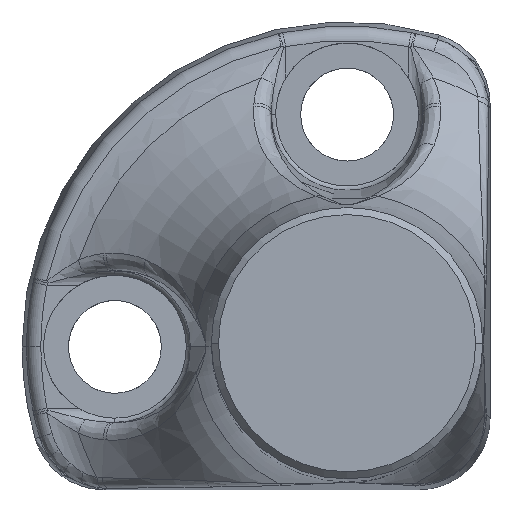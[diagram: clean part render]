
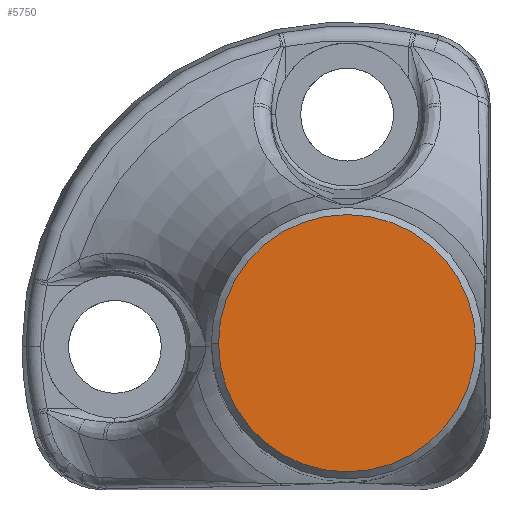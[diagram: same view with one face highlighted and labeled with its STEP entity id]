
A CAD part, top view. The second image highlights one B-rep face of the part: STEP entity #5750.
In plain terms, the highlighted planar face has unit normal (0, 0, 1).
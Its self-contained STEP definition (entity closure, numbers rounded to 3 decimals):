
#5702=CARTESIAN_POINT('Vertex',(18.,0.,300.)) ;
#5705=CARTESIAN_POINT('Axis2P3D Location',(0.,0.,300.)) ;
#5709=CARTESIAN_POINT('Vertex',(-18.,0.,300.)) ;
#5729=CARTESIAN_POINT('Axis2P3D Location',(0.,0.,300.)) ;
#5741=CARTESIAN_POINT('Axis2P3D Location',(75.,-24.173,300.)) ;
#5706=DIRECTION('Axis2P3D Direction',(-0.,0.,-1.)) ;
#5730=DIRECTION('Axis2P3D Direction',(-0.,0.,-1.)) ;
#5742=DIRECTION('Axis2P3D Direction',(0.,0.,-1.)) ;
#5743=DIRECTION('Axis2P3D XDirection',(-1.,0.,0.)) ;
#5707=AXIS2_PLACEMENT_3D('Circle Axis2P3D',#5705,#5706,$) ;
#5731=AXIS2_PLACEMENT_3D('Circle Axis2P3D',#5729,#5730,$) ;
#5744=AXIS2_PLACEMENT_3D('Plane Axis2P3D',#5741,#5742,#5743) ;
#5747=ORIENTED_EDGE('',*,*,#5711,.T.) ;
#5748=ORIENTED_EDGE('',*,*,#5733,.T.) ;
#5750=ADVANCED_FACE('Smusso4',(#5749),#5745,.F.) ;
#5708=CIRCLE('generated circle',#5707,18.) ;
#5732=CIRCLE('generated circle',#5731,18.) ;
#5711=EDGE_CURVE('',#5710,#5703,#5708,.F.) ;
#5733=EDGE_CURVE('',#5703,#5710,#5732,.F.) ;
#5746=EDGE_LOOP('',(#5747,#5748)) ;
#5749=FACE_OUTER_BOUND('',#5746,.T.) ;
#5745=PLANE('Plane',#5744) ;
#5703=VERTEX_POINT('',#5702) ;
#5710=VERTEX_POINT('',#5709) ;
